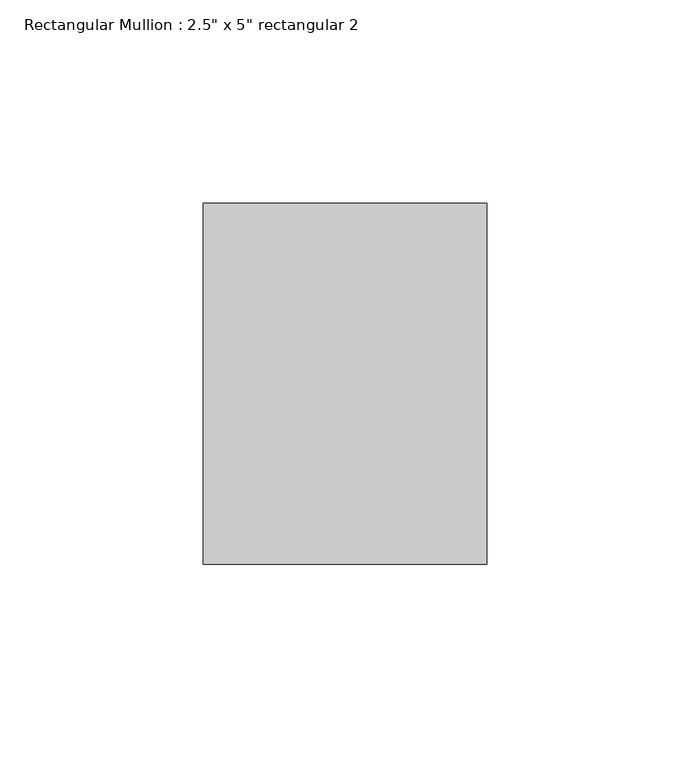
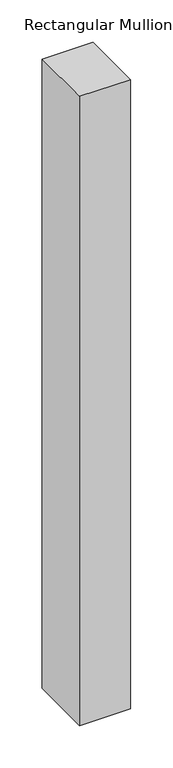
"""IFC4 building model written with IfcOpenShell, lengths in millimetres: member geometry."""

from ifc_helpers import new_model, si_unit, frame, origin, place, context, project, spatial, polyline, outline, extrude, source, transform, mapped, element, save


def member_b4cda2ac(model_context):
    return source(origin(), model_context, "Body", "SweptSolid", [
        extrude(outline(polyline([(38.1, 44.45), (38.1, -44.45), (-31.75, -44.45), (-31.75, 44.45), (38.1, 44.45)])), frame((0.0, 0.0, -909.5309364), z_axis=(0.0, 0.0, 1.0), x_axis=(1.0, 0.0, 0.0)), (0.0, 0.0, 1.0), 909.5309364),
    ])


if __name__ == "__main__":
    model = new_model("IFC4")
    model_context = context("Model", 3, world=origin())
    ifc_project = project(units=[si_unit("LENGTHUNIT", "METRE", prefix="MILLI")], contexts=[model_context])
    site = spatial("IfcSite", under=ifc_project)
    building = spatial("IfcBuilding", under=site)
    placement = place(None, origin())
    member_shape = member_b4cda2ac(model_context)
    element("IfcMember", 1, ObjectType="Rectangular Mullion : 2.5\" x 5\" rectangular 2", at=placement, inside=building, context=model_context, shape_type="MappedRepresentation", body=[
        mapped(member_shape, transform((0.0, 0.0, 0.0), x_axis=(1.0, 0.0, 0.0), y_axis=(0.0, 1.0, 0.0), z_axis=(0.0, 0.0, 1.0))),
    ])
    save(model, "model.ifc")
